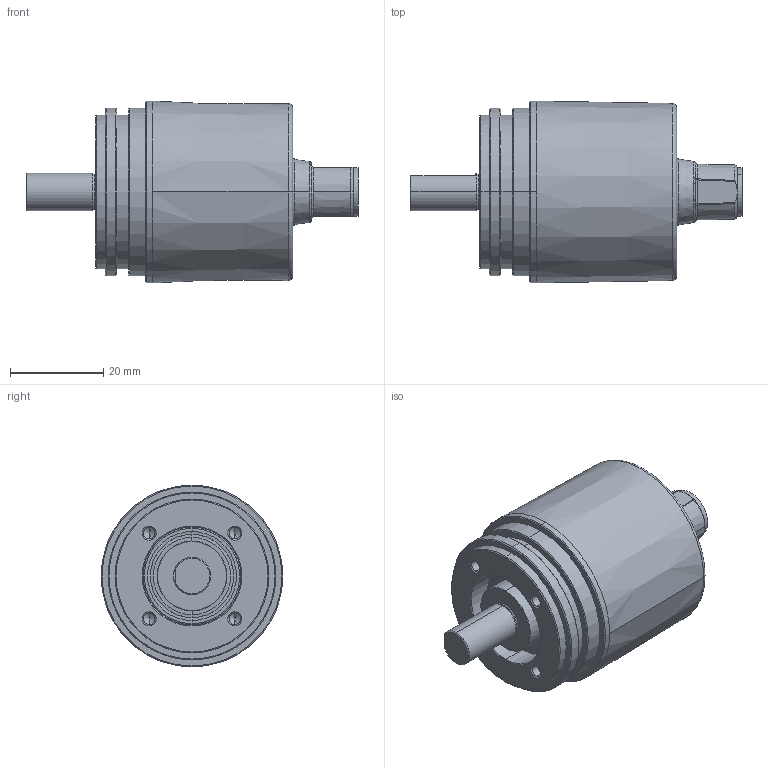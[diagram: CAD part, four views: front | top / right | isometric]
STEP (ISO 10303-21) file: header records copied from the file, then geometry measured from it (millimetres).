
FILE_DESCRIPTION (( 'STEP AP214' ), '1' );
FILE_NAME ('F3653.4328.XXXX.STEP', '2009-07-08T09:42:07', ( 'admin' ), ( 'Fritz Kübler GmbH' ), 'SwSTEP 2.0', 'SolidWorks 2009', '' );
FILE_SCHEMA (( 'AUTOMOTIVE_DESIGN' ));
Length unit declared in the file: millimetre
Products named in the file (1): F3653.4328.XXXX
Bounding box: 71.2 x 39 x 39 mm (x, y, z)
Volume: 22818.7 mm3; surface area: 22157.1 mm2
Topology: 20 solids, 20 shells, 609 faces, 1462 edges, 904 vertices
Faces by surface type: cylinder 165, plane 143, cone 113, bspline 88, torus 68, sphere 32
Entity records: 29129 total; most frequent: CARTESIAN_POINT 8795, DIRECTION 2837, ORIENTED_EDGE 2716, EDGE_CURVE 1358, AXIS2_PLACEMENT_3D 1162, VERTEX_POINT 852, EDGE_LOOP 684, CIRCLE 640
